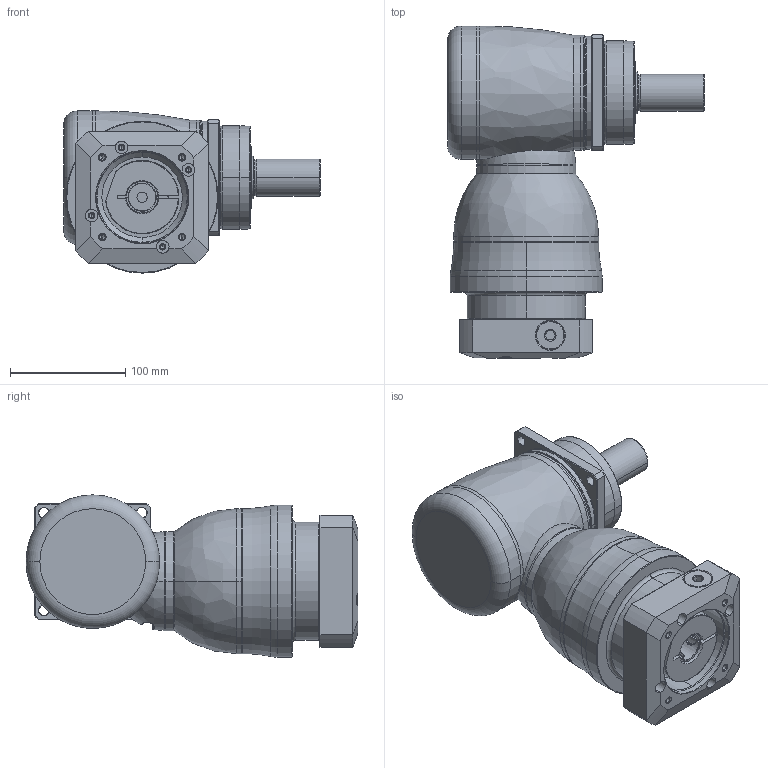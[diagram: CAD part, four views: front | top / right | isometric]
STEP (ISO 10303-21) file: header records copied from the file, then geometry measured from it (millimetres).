
FILE_DESCRIPTION((''),'2;1');
FILE_NAME('KF100_2ST_24-P0409500101_ASM','2016-06-24T',('d01943'),(''),'PRO/ENGINEER BY PARAMETRIC TECHNOLOGY CORPORATION, 2008410','PRO/ENGINEER BY PARAMETRIC TECHNOLOGY CORPORATION, 2008410','');
FILE_SCHEMA(('CONFIG_CONTROL_DESIGN'));
Length unit declared in the file: millimetre
Products named in the file (11): P1008400002; P1804400001; P0915400001; P1315400001; P1007400001; P1317400201; P0409500101; P0503500010; P0912303001; 21711418017; KF100_2ST_24-P0409500101_ASM
Assembly tree (10 placements, depth 2):
  KF100_2ST_24-P0409500101_ASM
    P1008400002
    P1804400001
    P0915400001
    P1315400001
    P1007400001
    P1317400201
    P0409500101
    P0503500010
    P0912303001
    21711418017
Bounding box: 223.3 x 288.5 x 141 mm (x, y, z)
Volume: 2607923.3 mm3; surface area: 350701.6 mm2
Topology: 11 solids, 11 shells, 491 faces, 1104 edges, 655 vertices
Faces by surface type: cylinder 166, cone 124, plane 101, torus 62, bspline 36, sphere 2
Entity records: 19819 total; most frequent: CARTESIAN_POINT 8666, DIRECTION 2446, ORIENTED_EDGE 2172, EDGE_CURVE 1086, AXIS2_PLACEMENT_3D 1038, VERTEX_POINT 655, EDGE_LOOP 563, CIRCLE 562
